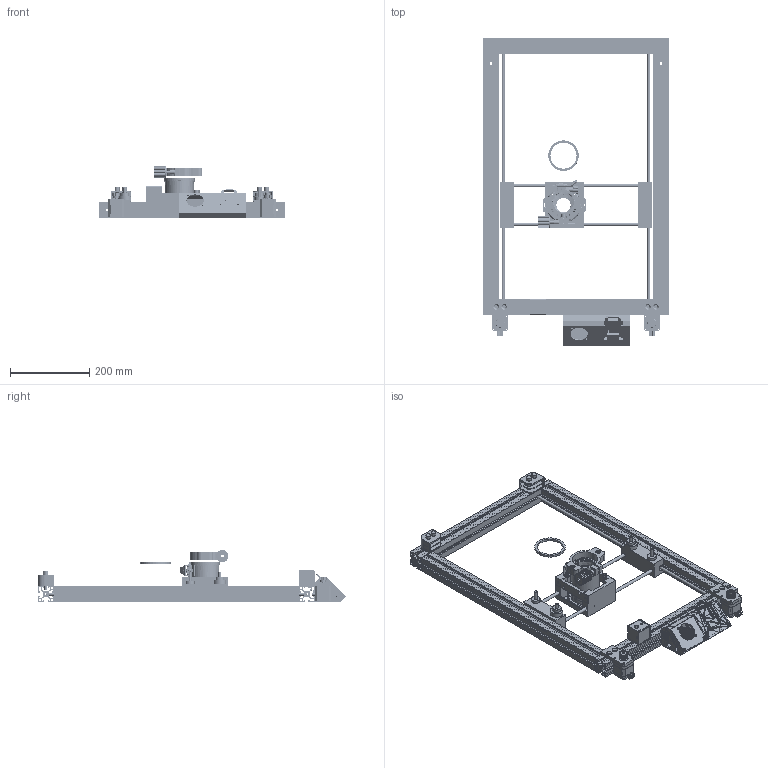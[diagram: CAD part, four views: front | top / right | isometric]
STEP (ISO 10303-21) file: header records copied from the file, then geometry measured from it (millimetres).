
FILE_DESCRIPTION(/* description */ (''),/* implementation_level */ '2;1');
FILE_NAME(/* name */ '0-Mobi-C-V4.step',/* time_stamp */ '2024-02-26T20:31:56+01:00',/* author */ (''),/* organization */ (''),/* preprocessor_version */ 'ST-DEVELOPER v20',/* originating_system */ 'Autodesk Translation Framework v12.20.1.177',/* authorisation */ '');
FILE_SCHEMA (('AUTOMOTIVE_DESIGN { 1 0 10303 214 3 1 1 }'));
Products named in the file (47): 0-Mobi-C-V4; Rahmen; AluProfilQuerBottom; AluProfilLaengs; GleitstangeY; AluProfilQuerBottom(Mirror); X-Achse; BlockXachse; GleitStangeX; BlockXachse_1; ScrewM8x60; Gleitlager15x24-8mm; Schlitten; Mobi-C-Fraesschlitten; Mobi-C-FrässchlittenZug; MakitaTrimmer; TrimmerBase; Adjusting-Screw; WasherM6; Bracket; Socket; LockingLever; ClampRubber; LockNutM4; Bolt; Pin4x5; MobiCRiemenSpanner; MakitaFraesschuhKompensation; Mobi-C-TrimmerStopper; MotorHalter; MotorHalter3Dprint; MotorHalter3Dprint_1; Mobi-C-Nema 17-Stepper; BeltDrive; Umlenkrollen; Umlenkrolle; M8x40; Umlenkrolle_1; Kugellager; Elektronik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
Assembly tree (69 placements, depth 5):
  0-Mobi-C-V4
    Rahmen
      AluProfilQuerBottom
      AluProfilLaengs  x2
      GleitstangeY
      AluProfilQuerBottom(Mirror)
    X-Achse
      BlockXachse
        ScrewM8x60  x2
        Kugellager  x2
      GleitStangeX  x2
      BlockXachse_1
        ScrewM8x60  x2
        Gleitlager15x24-8mm  x2
        Kugellager  x2
    Schlitten
      Mobi-C-Fraesschlitten
      Mobi-C-FrässchlittenZug  x2
      MakitaTrimmer
        TrimmerBase
        Adjusting-Screw
        WasherM6  x2
        Bracket
        Socket
        LockingLever
        ClampRubber
        LockNutM4
        Bolt  x2
        Pin4x5
      MobiCRiemenSpanner  x2
      MakitaFraesschuhKompensation
      Mobi-C-TrimmerStopper
    MotorHalter
      MotorHalter3Dprint
        Mobi-C-Nema 17-Stepper
      MotorHalter3Dprint_1
        Mobi-C-Nema 17-Stepper
      BeltDrive  x2
    Umlenkrollen
      Umlenkrolle
        Kugellager  x2
      M8x40  x4
      Umlenkrolle_1
        Kugellager  x2
    Elektronik
      Mobi-C-BatteryHolder
      M8x10  x2
      Mobi-C-ElektronicsHousing
        pcb
        Arduino_CNC_Assembly
          Arduino_Uno_CNC_Shield_V3
      Mobi-C-RemoteSwitch
Bounding box: 470 x 779.04 x 132.06 mm (x, y, z)
Volume: 2819476.5 mm3; surface area: 1584453.7 mm2
Topology: 159 solids, 159 shells, 14232 faces, 29485 edges, 16120 vertices
Faces by surface type: plane 12961, cylinder 757, bspline 331, cone 126, torus 47, sphere 10
Full cylindrical faces by diameter (mm): 0.2 x4, 0.5 x12, 1 x6, 1.2 x6, 1.48 x3, 1.5 x3, 1.58 x2, 1.6 x3, 2 x1, 3 x12, 3.3 x10, 3.34 x3, 3.4 x4, 3.8 x1, 4 x21, 4.8 x1, 5 x14, 5.5 x4, 6 x18, 6.5 x2, 6.8 x18, 7 x6, 7.8 x10, 8 x38, 8.1 x8, 9.5 x1, 10.4 x4, 11 x7, 12 x9, 12.4 x6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
Entity records: 364125 total; most frequent: CARTESIAN_POINT 77019, DIRECTION 57059, ORIENTED_EDGE 56910, EDGE_CURVE 28455, LINE 25291, VECTOR 25291, AXIS2_PLACEMENT_3D 15884, VERTEX_POINT 15418
